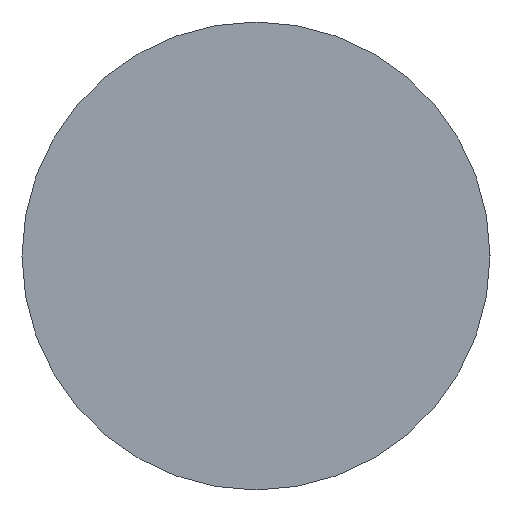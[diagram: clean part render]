
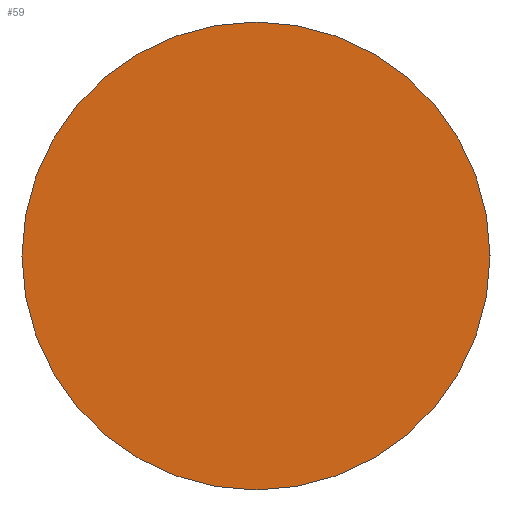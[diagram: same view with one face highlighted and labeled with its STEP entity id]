
A CAD part, left-side view. The second image highlights one B-rep face of the part: STEP entity #59.
In plain terms, the highlighted planar face has unit normal (-1, 0, 0).
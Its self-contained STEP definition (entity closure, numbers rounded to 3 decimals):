
#31 = VERTEX_POINT('',#32);
#32 = CARTESIAN_POINT('',(-7.62,0.,0.25));
#38 = EDGE_CURVE('',#31,#31,#39,.T.);
#39 = CIRCLE('',#40,0.25);
#40 = AXIS2_PLACEMENT_3D('',#41,#42,#43);
#41 = CARTESIAN_POINT('',(-7.62,0.,0.));
#42 = DIRECTION('',(1.,0.,0.));
#43 = DIRECTION('',(-0.,0.,1.));
#59 = ADVANCED_FACE('',(#60),#63,.F.);
#60 = FACE_BOUND('',#61,.T.);
#61 = EDGE_LOOP('',(#62));
#62 = ORIENTED_EDGE('',*,*,#38,.F.);
#63 = PLANE('',#64);
#64 = AXIS2_PLACEMENT_3D('',#65,#66,#67);
#65 = CARTESIAN_POINT('',(-7.62,0.,0.));
#66 = DIRECTION('',(1.,0.,0.));
#67 = DIRECTION('',(-0.,0.,1.));
